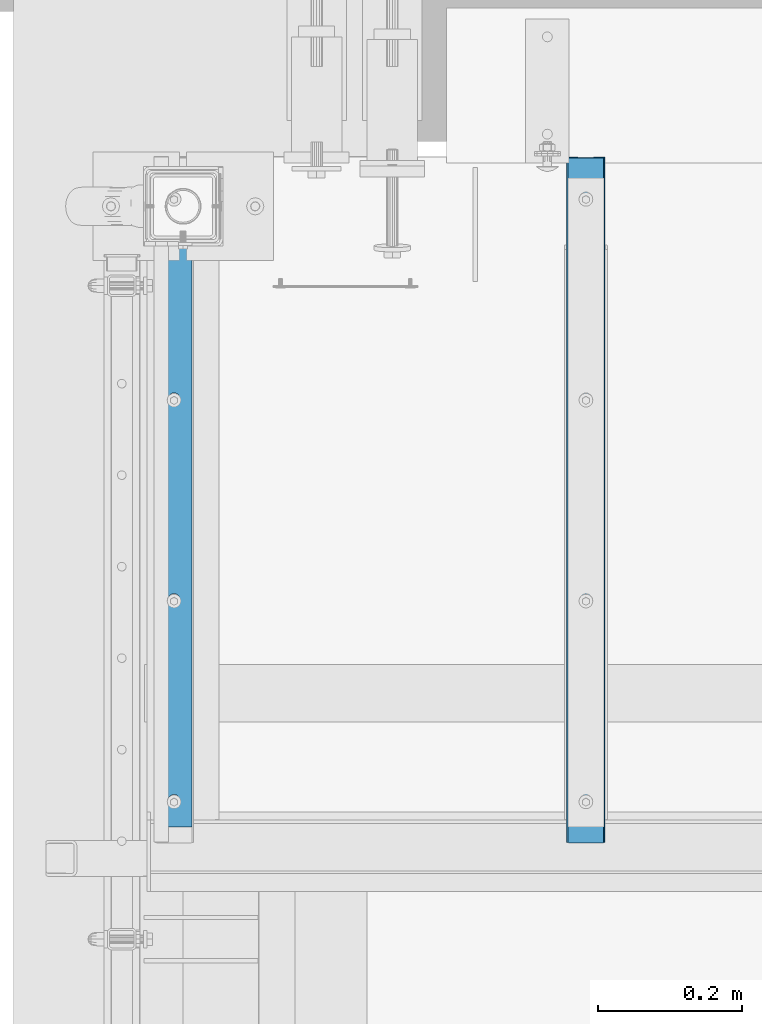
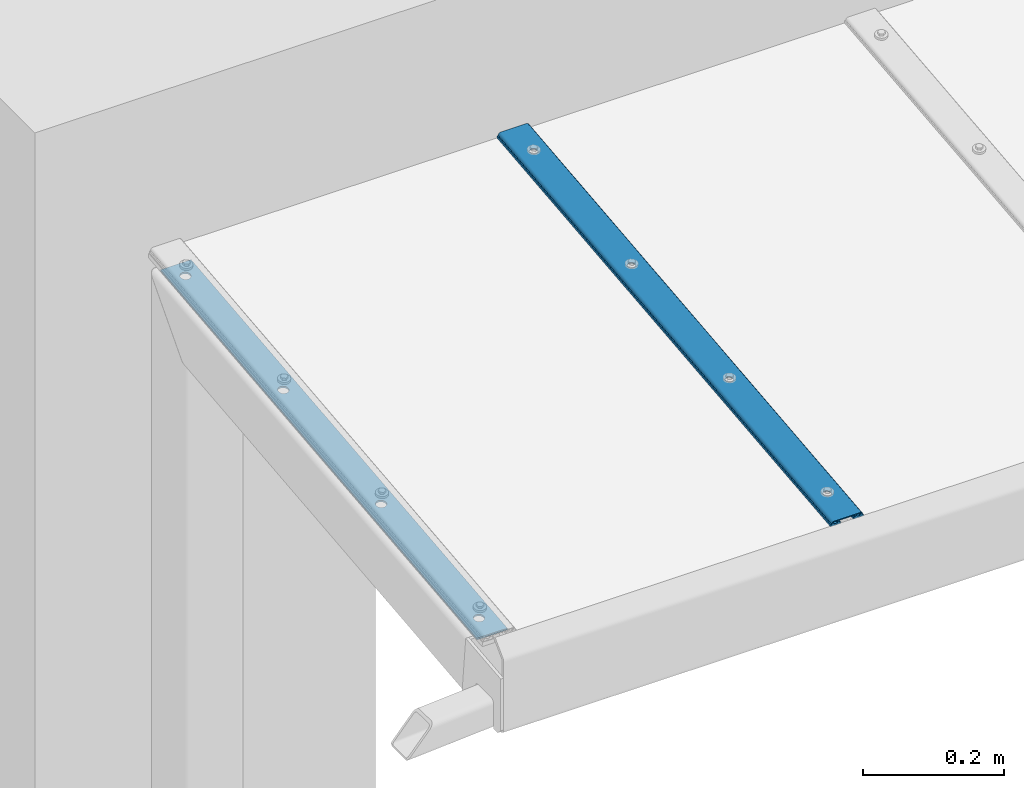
# One storey, part 16 of 116: 2 members, 8 openings.
"""IFC2X3 building model written with IfcOpenShell, lengths in millimetres."""

from ifc_helpers import new_model, entity, si_unit, converted_unit, point, frame, frame_2d, origin, origin_with_axes, origin_2d_with_axis, place, context, project, spatial, polyline, circle_curve, line_curve, trimmed, segment, composite_curve, circle, outline, extrude, material, element, save


model = new_model("IFC2X3")

# Units and contexts
model_context = context("Model", 3, precision=1e-09, world=origin_with_axes())
ifc_project = project(units=[si_unit("LENGTHUNIT", "METRE", prefix="MILLI"), si_unit("AREAUNIT", "SQUARE_METRE"), si_unit("VOLUMEUNIT", "CUBIC_METRE"), converted_unit("PLANEANGLEUNIT", "DEGREE", entity("IfcPlaneAngleMeasure", 0.01745329), si_unit("PLANEANGLEUNIT", "RADIAN"), dimensions=[0, 0, 0, 0, 0, 0, 0])], contexts=[model_context])

# Site, building, storey
site_placement = place(None, origin_with_axes())
site = spatial("IfcSite", under=ifc_project, at=site_placement, Name="Site", CompositionType="ELEMENT")
building_placement = place(site_placement, origin_with_axes())
building = spatial("IfcBuilding", under=site, at=building_placement, Name="Struktur 1", CompositionType="ELEMENT")
storey_placement = place(building_placement, origin_with_axes())
storey = spatial("IfcBuildingStorey", under=building, at=storey_placement, Name="Default Storey", CompositionType="ELEMENT", Elevation=0.0)

# Member, openings
ifc_material = material(Name="S235JR")
member_1_placement = place(None, frame((55895.549134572, 11080.325462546, 2512.640850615), z_axis=(0.0, -0.994521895, -0.104528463), x_axis=(1.0, 0.0, 0.0)))
member_1 = element("IfcMember", 1, at=member_1_placement, inside=storey, material=ifc_material, Name="-", ObjectType="-", context=model_context, shape_type="SweptSolid", body=[
    extrude(outline(composite_curve([segment(trimmed(line_curve((10.75, -4.5), (1.0, 0.0), 0.5), [point((10.75, -4.5))], [point((11.25, -4.5))], True, "CARTESIAN"), True, "CONTINUOUS"), segment(trimmed(line_curve((11.25, -4.5), (0.0, 1.0), 1.0), [point((11.25, -4.5))], [point((11.25, -3.5))], True, "CARTESIAN"), True, "CONTINUOUS"), segment(trimmed(line_curve((11.25, -3.5), (1.0, 0.0), 1.0), [point((11.25, -3.5))], [point((12.25, -3.5))], True, "CARTESIAN"), True, "CONTINUOUS"), segment(trimmed(line_curve((12.25, -3.5), (0.0, -1.0), 1.0), [point((12.25, -3.5))], [point((12.25, -4.5))], True, "CARTESIAN"), True, "CONTINUOUS"), segment(trimmed(line_curve((12.25, -4.5), (1.0, 0.0), 1.0), [point((12.25, -4.5))], [point((13.25, -4.5))], True, "CARTESIAN"), True, "CONTINUOUS"), segment(trimmed(line_curve((13.25, -4.5), (0.0, 1.0), 1.0), [point((13.25, -4.5))], [point((13.25, -3.5))], True, "CARTESIAN"), True, "CONTINUOUS"), segment(trimmed(line_curve((13.25, -3.5), (1.0, 0.0), 1.0), [point((13.25, -3.5))], [point((14.25, -3.5))], True, "CARTESIAN"), True, "CONTINUOUS"), segment(trimmed(line_curve((14.25, -3.5), (0.0, -1.0), 1.0), [point((14.25, -3.5))], [point((14.25, -4.5))], True, "CARTESIAN"), True, "CONTINUOUS"), segment(trimmed(line_curve((14.25, -4.5), (1.0, 0.0), 1.0), [point((14.25, -4.5))], [point((15.25, -4.5))], True, "CARTESIAN"), True, "CONTINUOUS"), segment(trimmed(line_curve((15.25, -4.5), (0.0, 1.0), 1.0), [point((15.25, -4.5))], [point((15.25, -3.5))], True, "CARTESIAN"), True, "CONTINUOUS"), segment(trimmed(line_curve((15.25, -3.5), (1.0, 0.0), 1.0), [point((15.25, -3.5))], [point((16.25, -3.5))], True, "CARTESIAN"), True, "CONTINUOUS"), segment(trimmed(line_curve((16.25, -3.5), (0.0, -1.0), 1.0), [point((16.25, -3.5))], [point((16.25, -4.5))], True, "CARTESIAN"), True, "CONTINUOUS"), segment(trimmed(line_curve((16.25, -4.5), (1.0, 0.0), 1.0), [point((16.25, -4.5))], [point((17.25, -4.5))], True, "CARTESIAN"), True, "CONTINUOUS"), segment(trimmed(line_curve((17.25, -4.5), (0.0, 1.0), 1.0), [point((17.25, -4.5))], [point((17.25, -3.5))], True, "CARTESIAN"), True, "CONTINUOUS"), segment(trimmed(line_curve((17.25, -3.5), (1.0, 0.0), 1.0), [point((17.25, -3.5))], [point((18.25, -3.5))], True, "CARTESIAN"), True, "CONTINUOUS"), segment(trimmed(line_curve((18.25, -3.5), (0.0, -1.0), 1.0), [point((18.25, -3.5))], [point((18.25, -4.5))], True, "CARTESIAN"), True, "CONTINUOUS"), segment(trimmed(line_curve((18.25, -4.5), (1.0, 0.0), 1.0), [point((18.25, -4.5))], [point((19.25, -4.5))], True, "CARTESIAN"), True, "CONTINUOUS"), segment(trimmed(line_curve((19.25, -4.5), (0.0, 1.0), 1.0), [point((19.25, -4.5))], [point((19.25, -3.5))], True, "CARTESIAN"), True, "CONTINUOUS"), segment(trimmed(line_curve((19.25, -3.5), (1.0, 0.0), 1.0), [point((19.25, -3.5))], [point((20.25, -3.5))], True, "CARTESIAN"), True, "CONTINUOUS"), segment(trimmed(line_curve((20.25, -3.5), (0.0, -1.0), 1.0), [point((20.25, -3.5))], [point((20.25, -4.5))], True, "CARTESIAN"), True, "CONTINUOUS"), segment(trimmed(line_curve((20.25, -4.5), (1.0, 0.0), 1.0), [point((20.25, -4.5))], [point((21.25, -4.5))], True, "CARTESIAN"), True, "CONTINUOUS"), segment(trimmed(line_curve((21.25, -4.5), (0.0, 1.0), 1.0), [point((21.25, -4.5))], [point((21.25, -3.5))], True, "CARTESIAN"), True, "CONTINUOUS"), segment(trimmed(line_curve((21.25, -3.5), (1.0, 0.0), 1.0), [point((21.25, -3.5))], [point((22.25, -3.5))], True, "CARTESIAN"), True, "CONTINUOUS"), segment(trimmed(line_curve((22.25, -3.5), (0.0, -1.0), 1.0), [point((22.25, -3.5))], [point((22.25, -4.5))], True, "CARTESIAN"), True, "CONTINUOUS"), segment(trimmed(line_curve((22.25, -4.5), (1.0, 0.0), 1.0), [point((22.25, -4.5))], [point((23.25, -4.5))], True, "CARTESIAN"), True, "CONTINUOUS"), segment(trimmed(line_curve((23.25, -4.5), (0.0, 1.0), 1.0), [point((23.25, -4.5))], [point((23.25, -3.5))], True, "CARTESIAN"), True, "CONTINUOUS"), segment(trimmed(line_curve((23.25, -3.5), (1.0, 0.0), 1.0), [point((23.25, -3.5))], [point((24.25, -3.5))], True, "CARTESIAN"), True, "CONTINUOUS"), segment(trimmed(line_curve((24.25, -3.5), (0.0, -1.0), 1.0), [point((24.25, -3.5))], [point((24.25, -4.5))], True, "CARTESIAN"), True, "CONTINUOUS"), segment(trimmed(line_curve((24.25, -4.5), (1.0, 0.0), 1.0), [point((24.25, -4.5))], [point((25.25, -4.5))], True, "CARTESIAN"), True, "CONTINUOUS"), segment(trimmed(line_curve((25.25, -4.5), (0.0, 1.0), 1.0), [point((25.25, -4.5))], [point((25.25, -3.5))], True, "CARTESIAN"), True, "CONTINUOUS"), segment(trimmed(line_curve((25.25, -3.5), (1.0, 0.0), 1.0), [point((25.25, -3.5))], [point((26.25, -3.5))], True, "CARTESIAN"), True, "CONTINUOUS"), segment(trimmed(line_curve((26.25, -3.5), (0.0, -1.0), 1.0), [point((26.25, -3.5))], [point((26.25, -4.5))], True, "CARTESIAN"), True, "CONTINUOUS"), segment(trimmed(line_curve((26.25, -4.5), (1.0, 0.0), 0.5), [point((26.25, -4.5))], [point((26.75, -4.5))], True, "CARTESIAN"), True, "CONTINUOUS"), segment(trimmed(line_curve((26.75, -4.5), (0.0, 1.0), 4.0), [point((26.75, -4.5))], [point((26.75, -0.5))], True, "CARTESIAN"), True, "CONTINUOUS"), segment(trimmed(line_curve((26.75, -0.5), (-1.0, 0.0), 1.75), [point((26.75, -0.5))], [point((25.0, -0.5))], True, "CARTESIAN"), True, "CONTINUOUS"), segment(trimmed(line_curve((25.0, -0.5), (0.0, 1.0), 1.5), [point((25.0, -0.5))], [point((25.0, 1.0))], True, "CARTESIAN"), True, "CONTINUOUS"), segment(trimmed(circle_curve(frame_2d((21.499999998, 0.999999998), x_axis=(1.0, 0.0)), 3.500000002), [point((25.0, 1.0))], [point((21.5, 4.5))], True, "CARTESIAN"), True, "CONTINUOUS"), segment(trimmed(line_curve((21.5, 4.5), (-1.0, 0.0), 43.0), [point((21.5, 4.5))], [point((-21.5, 4.5))], True, "CARTESIAN"), True, "CONTINUOUS"), segment(trimmed(circle_curve(frame_2d((-21.499999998, 0.999999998), x_axis=(1.0, 0.0)), 3.500000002), [point((-21.5, 4.5))], [point((-25.0, 1.0))], True, "CARTESIAN"), True, "CONTINUOUS"), segment(trimmed(line_curve((-25.0, 1.0), (0.0, -1.0), 1.5), [point((-25.0, 1.0))], [point((-25.0, -0.5))], True, "CARTESIAN"), True, "CONTINUOUS"), segment(trimmed(line_curve((-25.0, -0.5), (-1.0, 0.0), 1.75), [point((-25.0, -0.5))], [point((-26.75, -0.5))], True, "CARTESIAN"), True, "CONTINUOUS"), segment(trimmed(line_curve((-26.75, -0.5), (0.0, -1.0), 4.0), [point((-26.75, -0.5))], [point((-26.75, -4.5))], True, "CARTESIAN"), True, "CONTINUOUS"), segment(trimmed(line_curve((-26.75, -4.5), (1.0, 0.0), 0.5), [point((-26.75, -4.5))], [point((-26.25, -4.5))], True, "CARTESIAN"), True, "CONTINUOUS"), segment(trimmed(line_curve((-26.25, -4.5), (0.0, 1.0), 1.0), [point((-26.25, -4.5))], [point((-26.25, -3.5))], True, "CARTESIAN"), True, "CONTINUOUS"), segment(trimmed(line_curve((-26.25, -3.5), (1.0, 0.0), 1.0), [point((-26.25, -3.5))], [point((-25.25, -3.5))], True, "CARTESIAN"), True, "CONTINUOUS"), segment(trimmed(line_curve((-25.25, -3.5), (0.0, -1.0), 1.0), [point((-25.25, -3.5))], [point((-25.25, -4.5))], True, "CARTESIAN"), True, "CONTINUOUS"), segment(trimmed(line_curve((-25.25, -4.5), (1.0, 0.0), 1.0), [point((-25.25, -4.5))], [point((-24.25, -4.5))], True, "CARTESIAN"), True, "CONTINUOUS"), segment(trimmed(line_curve((-24.25, -4.5), (0.0, 1.0), 1.0), [point((-24.25, -4.5))], [point((-24.25, -3.5))], True, "CARTESIAN"), True, "CONTINUOUS"), segment(trimmed(line_curve((-24.25, -3.5), (1.0, 0.0), 1.0), [point((-24.25, -3.5))], [point((-23.25, -3.5))], True, "CARTESIAN"), True, "CONTINUOUS"), segment(trimmed(line_curve((-23.25, -3.5), (0.0, -1.0), 1.0), [point((-23.25, -3.5))], [point((-23.25, -4.5))], True, "CARTESIAN"), True, "CONTINUOUS"), segment(trimmed(line_curve((-23.25, -4.5), (1.0, 0.0), 1.0), [point((-23.25, -4.5))], [point((-22.25, -4.5))], True, "CARTESIAN"), True, "CONTINUOUS"), segment(trimmed(line_curve((-22.25, -4.5), (0.0, 1.0), 1.0), [point((-22.25, -4.5))], [point((-22.25, -3.5))], True, "CARTESIAN"), True, "CONTINUOUS"), segment(trimmed(line_curve((-22.25, -3.5), (1.0, 0.0), 1.0), [point((-22.25, -3.5))], [point((-21.25, -3.5))], True, "CARTESIAN"), True, "CONTINUOUS"), segment(trimmed(line_curve((-21.25, -3.5), (0.0, -1.0), 1.0), [point((-21.25, -3.5))], [point((-21.25, -4.5))], True, "CARTESIAN"), True, "CONTINUOUS"), segment(trimmed(line_curve((-21.25, -4.5), (1.0, 0.0), 1.0), [point((-21.25, -4.5))], [point((-20.25, -4.5))], True, "CARTESIAN"), True, "CONTINUOUS"), segment(trimmed(line_curve((-20.25, -4.5), (0.0, 1.0), 1.0), [point((-20.25, -4.5))], [point((-20.25, -3.5))], True, "CARTESIAN"), True, "CONTINUOUS"), segment(trimmed(line_curve((-20.25, -3.5), (1.0, 0.0), 1.0), [point((-20.25, -3.5))], [point((-19.25, -3.5))], True, "CARTESIAN"), True, "CONTINUOUS"), segment(trimmed(line_curve((-19.25, -3.5), (0.0, -1.0), 1.0), [point((-19.25, -3.5))], [point((-19.25, -4.5))], True, "CARTESIAN"), True, "CONTINUOUS"), segment(trimmed(line_curve((-19.25, -4.5), (1.0, 0.0), 1.0), [point((-19.25, -4.5))], [point((-18.25, -4.5))], True, "CARTESIAN"), True, "CONTINUOUS"), segment(trimmed(line_curve((-18.25, -4.5), (0.0, 1.0), 1.0), [point((-18.25, -4.5))], [point((-18.25, -3.5))], True, "CARTESIAN"), True, "CONTINUOUS"), segment(trimmed(line_curve((-18.25, -3.5), (1.0, 0.0), 1.0), [point((-18.25, -3.5))], [point((-17.25, -3.5))], True, "CARTESIAN"), True, "CONTINUOUS"), segment(trimmed(line_curve((-17.25, -3.5), (0.0, -1.0), 1.0), [point((-17.25, -3.5))], [point((-17.25, -4.5))], True, "CARTESIAN"), True, "CONTINUOUS"), segment(trimmed(line_curve((-17.25, -4.5), (1.0, 0.0), 1.0), [point((-17.25, -4.5))], [point((-16.25, -4.5))], True, "CARTESIAN"), True, "CONTINUOUS"), segment(trimmed(line_curve((-16.25, -4.5), (0.0, 1.0), 1.0), [point((-16.25, -4.5))], [point((-16.25, -3.5))], True, "CARTESIAN"), True, "CONTINUOUS"), segment(trimmed(line_curve((-16.25, -3.5), (1.0, 0.0), 1.0), [point((-16.25, -3.5))], [point((-15.25, -3.5))], True, "CARTESIAN"), True, "CONTINUOUS"), segment(trimmed(line_curve((-15.25, -3.5), (0.0, -1.0), 1.0), [point((-15.25, -3.5))], [point((-15.25, -4.5))], True, "CARTESIAN"), True, "CONTINUOUS"), segment(trimmed(line_curve((-15.25, -4.5), (1.0, 0.0), 1.0), [point((-15.25, -4.5))], [point((-14.25, -4.5))], True, "CARTESIAN"), True, "CONTINUOUS"), segment(trimmed(line_curve((-14.25, -4.5), (0.0, 1.0), 1.0), [point((-14.25, -4.5))], [point((-14.25, -3.5))], True, "CARTESIAN"), True, "CONTINUOUS"), segment(trimmed(line_curve((-14.25, -3.5), (1.0, 0.0), 1.0), [point((-14.25, -3.5))], [point((-13.25, -3.5))], True, "CARTESIAN"), True, "CONTINUOUS"), segment(trimmed(line_curve((-13.25, -3.5), (0.0, -1.0), 1.0), [point((-13.25, -3.5))], [point((-13.25, -4.5))], True, "CARTESIAN"), True, "CONTINUOUS"), segment(trimmed(line_curve((-13.25, -4.5), (1.0, 0.0), 1.0), [point((-13.25, -4.5))], [point((-12.25, -4.5))], True, "CARTESIAN"), True, "CONTINUOUS"), segment(trimmed(line_curve((-12.25, -4.5), (0.0, 1.0), 1.0), [point((-12.25, -4.5))], [point((-12.25, -3.5))], True, "CARTESIAN"), True, "CONTINUOUS"), segment(trimmed(line_curve((-12.25, -3.5), (1.0, 0.0), 1.0), [point((-12.25, -3.5))], [point((-11.25, -3.5))], True, "CARTESIAN"), True, "CONTINUOUS"), segment(trimmed(line_curve((-11.25, -3.5), (0.0, -1.0), 1.0), [point((-11.25, -3.5))], [point((-11.25, -4.5))], True, "CARTESIAN"), True, "CONTINUOUS"), segment(trimmed(line_curve((-11.25, -4.5), (1.0, 0.0), 0.5), [point((-11.25, -4.5))], [point((-10.75, -4.5))], True, "CARTESIAN"), True, "CONTINUOUS"), segment(trimmed(line_curve((-10.75, -4.5), (0.0, 1.0), 4.0), [point((-10.75, -4.5))], [point((-10.75, -0.5))], True, "CARTESIAN"), True, "CONTINUOUS"), segment(trimmed(line_curve((-10.75, -0.5), (-1.0, 0.0), 1.75), [point((-10.75, -0.5))], [point((-12.5, -0.5))], True, "CARTESIAN"), True, "CONTINUOUS"), segment(trimmed(line_curve((-12.5, -0.5), (0.0, 1.0), 3.0), [point((-12.5, -0.5))], [point((-12.5, 2.5))], True, "CARTESIAN"), True, "CONTINUOUS"), segment(trimmed(line_curve((-12.5, 2.5), (1.0, 0.0), 25.0), [point((-12.5, 2.5))], [point((12.5, 2.5))], True, "CARTESIAN"), True, "CONTINUOUS"), segment(trimmed(line_curve((12.5, 2.5), (0.0, -1.0), 3.0), [point((12.5, 2.5))], [point((12.5, -0.5))], True, "CARTESIAN"), True, "CONTINUOUS"), segment(trimmed(line_curve((12.5, -0.5), (-1.0, 0.0), 1.75), [point((12.5, -0.5))], [point((10.75, -0.5))], True, "CARTESIAN"), True, "CONTINUOUS"), segment(trimmed(line_curve((10.75, -0.5), (0.0, -1.0), 4.0), [point((10.75, -0.5))], [point((10.75, -4.5))], True, "CARTESIAN"), True, "CONTINUOUS")], self_intersect=False), holes=[composite_curve([segment(trimmed(line_curve((16.25, -0.5), (1.0, 0.0), 5.0), [point((16.25, -0.5))], [point((21.25, -0.5))], True, "CARTESIAN"), True, "CONTINUOUS"), segment(trimmed(line_curve((21.25, -0.5), (0.0, 1.0), 1.5), [point((21.25, -0.5))], [point((21.25, 1.0))], True, "CARTESIAN"), True, "CONTINUOUS"), segment(trimmed(line_curve((21.25, 1.0), (1.0, 0.0), 2.25), [point((21.25, 1.0))], [point((23.5, 1.0))], True, "CARTESIAN"), True, "CONTINUOUS"), segment(trimmed(circle_curve(frame_2d((21.499999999, 0.999999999), x_axis=(1.0, 0.0)), 2.000000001), [point((23.5, 1.0))], [point((21.5, 3.0))], True, "CARTESIAN"), True, "CONTINUOUS"), segment(trimmed(line_curve((21.5, 3.0), (-1.0, 0.0), 7.5), [point((21.5, 3.0))], [point((14.0, 3.0))], True, "CARTESIAN"), True, "CONTINUOUS"), segment(trimmed(line_curve((14.0, 3.0), (0.0, -1.0), 2.0), [point((14.0, 3.0))], [point((14.0, 1.0))], True, "CARTESIAN"), True, "CONTINUOUS"), segment(trimmed(line_curve((14.0, 1.0), (1.0, 0.0), 2.25), [point((14.0, 1.0))], [point((16.25, 1.0))], True, "CARTESIAN"), True, "CONTINUOUS"), segment(trimmed(line_curve((16.25, 1.0), (0.0, -1.0), 1.5), [point((16.25, 1.0))], [point((16.25, -0.5))], True, "CARTESIAN"), True, "CONTINUOUS")], self_intersect=False), composite_curve([segment(trimmed(line_curve((-16.25, -0.5), (0.0, 1.0), 1.5), [point((-16.25, -0.5))], [point((-16.25, 1.0))], True, "CARTESIAN"), True, "CONTINUOUS"), segment(trimmed(line_curve((-16.25, 1.0), (1.0, 0.0), 2.25), [point((-16.25, 1.0))], [point((-14.0, 1.0))], True, "CARTESIAN"), True, "CONTINUOUS"), segment(trimmed(line_curve((-14.0, 1.0), (0.0, 1.0), 2.0), [point((-14.0, 1.0))], [point((-14.0, 3.0))], True, "CARTESIAN"), True, "CONTINUOUS"), segment(trimmed(line_curve((-14.0, 3.0), (-1.0, 0.0), 7.5), [point((-14.0, 3.0))], [point((-21.5, 3.0))], True, "CARTESIAN"), True, "CONTINUOUS"), segment(trimmed(circle_curve(frame_2d((-21.499999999, 0.999999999), x_axis=(1.0, 0.0)), 2.000000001), [point((-21.5, 3.0))], [point((-23.5, 1.0))], True, "CARTESIAN"), True, "CONTINUOUS"), segment(trimmed(line_curve((-23.5, 1.0), (1.0, 0.0), 2.25), [point((-23.5, 1.0))], [point((-21.25, 1.0))], True, "CARTESIAN"), True, "CONTINUOUS"), segment(trimmed(line_curve((-21.25, 1.0), (0.0, -1.0), 1.5), [point((-21.25, 1.0))], [point((-21.25, -0.5))], True, "CARTESIAN"), True, "CONTINUOUS"), segment(trimmed(line_curve((-21.25, -0.5), (1.0, 0.0), 5.0), [point((-21.25, -0.5))], [point((-16.25, -0.5))], True, "CARTESIAN"), True, "CONTINUOUS")], self_intersect=False)]), origin(), (0.0, 0.0, -1.0), 954.995580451),
])
opening_1_placement = place(member_1_placement, frame((2e-09, 2.0, -57.497790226), z_axis=(0.0, 1.0, 0.0), x_axis=(1.0, 0.0, 0.0)))
element("IfcOpeningElement", 2, at=opening_1_placement, cuts=member_1, ObjectType="Opening", context=model_context, shape_type="SweptSolid", body=[
    extrude(circle(Radius=6.001, at=origin_2d_with_axis()), origin(), (0.0, 0.0, 1.0), 3.0),
])
opening_2_placement = place(member_1_placement, frame((2e-09, 2.0, -617.497790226), z_axis=(0.0, 1.0, 0.0), x_axis=(1.0, 0.0, 0.0)))
element("IfcOpeningElement", 3, at=opening_2_placement, cuts=member_1, ObjectType="Opening", context=model_context, shape_type="SweptSolid", body=[
    extrude(circle(Radius=6.001, at=origin_2d_with_axis()), origin(), (0.0, 0.0, 1.0), 3.0),
])
opening_3_placement = place(member_1_placement, frame((2e-09, 2.0, -897.497790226), z_axis=(0.0, 1.0, 0.0), x_axis=(1.0, 0.0, 0.0)))
element("IfcOpeningElement", 4, at=opening_3_placement, cuts=member_1, ObjectType="Opening", context=model_context, shape_type="SweptSolid", body=[
    extrude(circle(Radius=6.001, at=origin_2d_with_axis()), origin(), (0.0, 0.0, 1.0), 3.0),
])
opening_4_placement = place(member_1_placement, frame((2e-09, 2.0, -337.497790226), z_axis=(0.0, 1.0, 0.0), x_axis=(1.0, 0.0, 0.0)))
element("IfcOpeningElement", 5, at=opening_4_placement, cuts=member_1, ObjectType="Opening", context=model_context, shape_type="SweptSolid", body=[
    extrude(circle(Radius=6.001, at=origin_2d_with_axis()), origin(), (0.0, 0.0, 1.0), 3.0),
])

member_2_placement = place(None, frame((55324.549134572, 11101.758740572, 2500.052276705), z_axis=(0.0, 0.994521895, 0.104528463), x_axis=(-1.0, 0.0, 0.0)))
member_2 = element("IfcMember", 6, at=member_2_placement, inside=storey, material=ifc_material, Name="-", ObjectType="-", context=model_context, shape_type="SweptSolid", body=[
    extrude(outline(polyline([(-25.0, 1.5), (-25.0, -1.5), (25.0, -1.5), (25.0, 1.5), (-25.0, 1.5)])), origin(), (0.0, 0.0, 1.0), 904.995580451),
])
opening_5_placement = place(member_2_placement, frame((-8.000999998, -2.0, 317.497790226), z_axis=(0.0, -1.0, 0.0), x_axis=(1.0, 0.0, 0.0)))
element("IfcOpeningElement", 7, at=opening_5_placement, cuts=member_2, ObjectType="Opening", context=model_context, shape_type="SweptSolid", body=[
    extrude(circle(Radius=8.001, at=frame_2d((8.001, 0.0), x_axis=(1.0, 0.0))), origin(), (0.0, 0.0, -1.0), 4.0),
])
opening_6_placement = place(member_2_placement, frame((-8.000999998, -2.0, 597.497790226), z_axis=(0.0, -1.0, 0.0), x_axis=(1.0, 0.0, 0.0)))
element("IfcOpeningElement", 8, at=opening_6_placement, cuts=member_2, ObjectType="Opening", context=model_context, shape_type="SweptSolid", body=[
    extrude(circle(Radius=8.001, at=frame_2d((8.001, 0.0), x_axis=(1.0, 0.0))), origin(), (0.0, 0.0, -1.0), 4.0),
])
opening_7_placement = place(member_2_placement, frame((-8.000999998, -2.0, 877.497790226), z_axis=(0.0, -1.0, 0.0), x_axis=(1.0, 0.0, 0.0)))
element("IfcOpeningElement", 9, at=opening_7_placement, cuts=member_2, ObjectType="Opening", context=model_context, shape_type="SweptSolid", body=[
    extrude(circle(Radius=8.001, at=frame_2d((8.001, 0.0), x_axis=(1.0, 0.0))), origin(), (0.0, 0.0, -1.0), 4.0),
])
opening_8_placement = place(member_2_placement, frame((-8.000999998, -2.0, 37.497790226), z_axis=(0.0, -1.0, 0.0), x_axis=(1.0, 0.0, 0.0)))
element("IfcOpeningElement", 10, at=opening_8_placement, cuts=member_2, ObjectType="Opening", context=model_context, shape_type="SweptSolid", body=[
    extrude(circle(Radius=8.001, at=frame_2d((8.001, 0.0), x_axis=(1.0, 0.0))), origin(), (0.0, 0.0, -1.0), 4.0),
])

save(model, "model.ifc")
